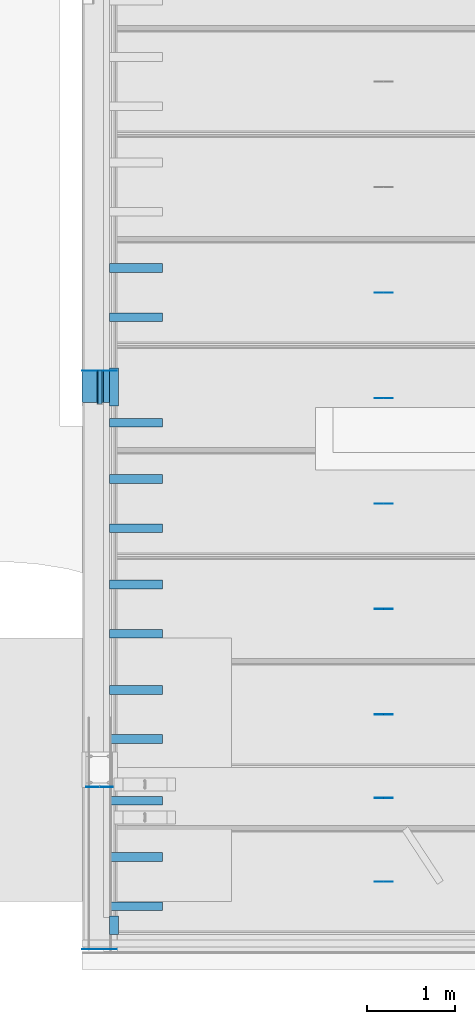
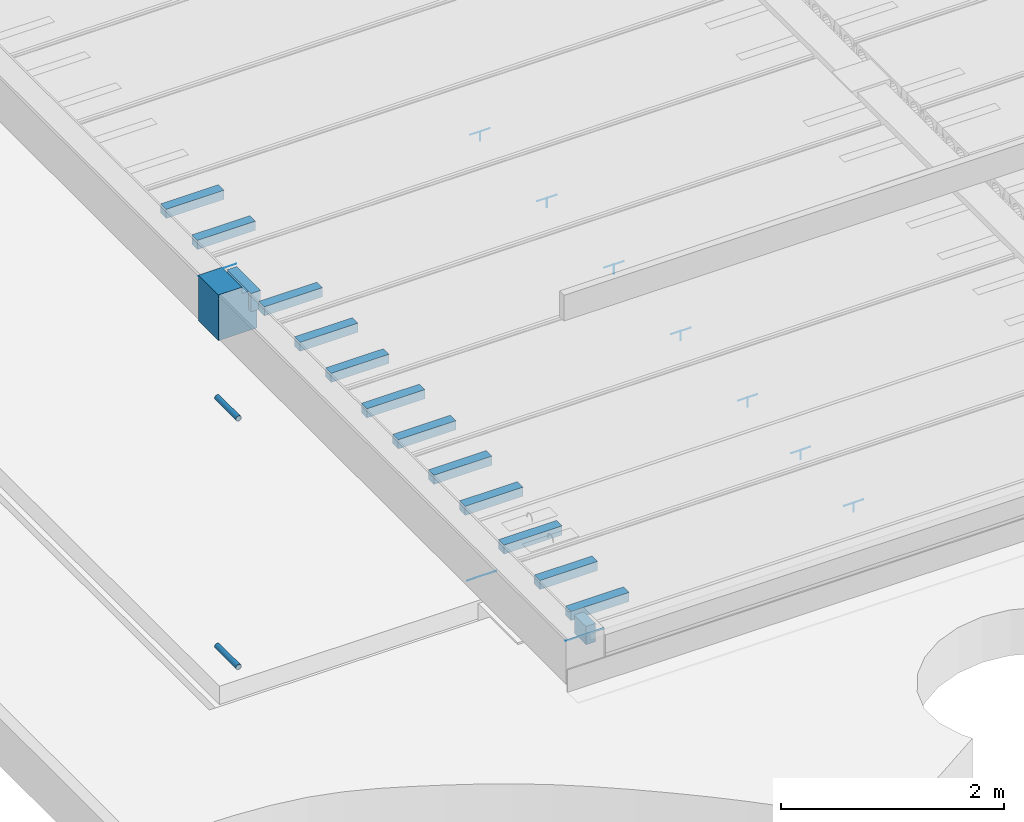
# One storey, part 10 of 230: 34 beams.
"""IFC4X3_ADD2 building model written with IfcOpenShell, lengths in millimetres."""

from ifc_helpers import new_model, si_unit, direction, frame, frame_2d, origin_with_axes, place, context, subcontext, project, spatial, indexed_curve, rectangle, hollow_circle, outline, extrude, material, element, save


model = new_model("IFC4X3_ADD2")

# Units and contexts
model_context = context("Model", 3, precision=1e-05, world=origin_with_axes(), true_north=direction((0.0, 1.0)))
body_context = subcontext(model_context, "Body", "Model", "MODEL_VIEW")
ifc_project = project(units=[si_unit("LENGTHUNIT", "METRE", prefix="MILLI"), si_unit("AREAUNIT", "SQUARE_METRE"), si_unit("VOLUMEUNIT", "CUBIC_METRE"), si_unit("PLANEANGLEUNIT", "RADIAN"), si_unit("TIMEUNIT", "SECOND"), si_unit("MASSUNIT", "GRAM")], contexts=[model_context])

# Site, building, storey
site_placement = place(None, origin_with_axes())
site = spatial("IfcSite", under=ifc_project, at=site_placement, Name="Site", CompositionType="ELEMENT")
building_placement = place(site_placement, origin_with_axes())
building = spatial("IfcBuilding", under=site, at=building_placement, Name="IFC Building Story")
storey_placement = place(building_placement, origin_with_axes())
storey = spatial("IfcBuildingStorey", under=building, at=storey_placement, Name="ETAGE 00 (0)", Elevation=0.0)

# Beams
ifc_material_1 = material(Name="BS_28_Ossature en béton armé - Eléments coulé sur place")
beam_1_placement = place(storey_placement, frame((33401.68947816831, -8210.00008672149, 4020.0), z_axis=(0.0, 1.0, 0.0), x_axis=(1.0, 0.0, 0.0)))
element("IfcBeam", 1, at=beam_1_placement, inside=storey, material=ifc_material_1, Name="BS_28_SF_LE_Poutre rectangulaire_coulé:B.A. 40x50cm (noeud CSP)", ObjectType="B.A. 40x50cm (noeud CSP)", context=body_context, shape_type="SweptSolid", body=[
    extrude(outline(indexed_curve([(44.4985218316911, -180.0), (44.4985218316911, -250.0), (-200.0000000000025, -250.0), (-200.0000000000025, 250.0), (200.0000000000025, 250.0), (200.0000000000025, -180.0), (44.49852183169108, -180.0)])), origin_with_axes(), (0.0, 0.0, 1.0), 360.0),
])
ifc_material_2 = material(Name="STEEL/Accessory_PVC")
for number, where, z_axis, x_axis, name in (
    (2, (33401.189, -8226.99999994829, 140.0), (0.0, 1.0, 0.0), (1.0, 0.0, 0.0), "PS13"),
    (3, (33401.189, -8226.99999994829, 2860.0), (0.0, 1.0, 0.0), (1.0, 0.0, 0.0), "PS13"),
):
    element("IfcBeam", number, at=place(storey_placement, frame(where, z_axis=z_axis, x_axis=x_axis)), inside=storey, material=ifc_material_2, Name=name, ObjectType="O56*3", context=body_context, shape_type="SweptSolid", body=[
        extrude(hollow_circle(Radius=28.0, WallThickness=3.0, at=frame_2d((0.0, 5.95523630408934e-12), x_axis=(1.0, 0.0))), origin_with_axes(), (0.0, 0.0, 1.0), 384.0),
    ])
ifc_material_3 = material(Name="STEEL/Accessory_invisible")
for number, where, z_axis, x_axis, name in (
    (4, (34115.6922247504, -6679.999771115, 4150.0), (-1.0, 0.0, 0.0), (0.0, 1.0, 0.0), "ES7"),
    (5, (34115.6922247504, -7239.999771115, 4150.0), (-1.0, 0.0, 0.0), (0.0, 1.0, 0.0), "ES7"),
):
    element("IfcBeam", number, at=place(storey_placement, frame(where, z_axis=z_axis, x_axis=x_axis)), inside=storey, material=ifc_material_3, Name=name, ObjectType="100*100", context=body_context, shape_type="SweptSolid", body=[
        extrude(rectangle(XDim=100.0, YDim=99.99999999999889, at=frame_2d((0.0, 5.95523630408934e-12), x_axis=(1.0, 0.0))), origin_with_axes(), (0.0, 0.0, 1.0), 600.0),
    ])
ifc_material_4 = material(Name="STEEL/Accessory_invisible 261")
beam_2_placement = place(storey_placement, frame((36633.6922247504, -6959.999771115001, 4049.9999909), z_axis=(-1.0, 0.0, 0.0), x_axis=(0.0, 0.0, -1.0)))
element("IfcBeam", 6, at=beam_2_placement, inside=storey, material=ifc_material_4, Name="ES6", ObjectType="1*1 2", context=body_context, shape_type="SweptSolid", body=[
    extrude(rectangle(XDim=100.0, YDim=0.9999999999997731, at=frame_2d((0.0, 5.95523630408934e-12), x_axis=(1.0, 0.0))), origin_with_axes(), (0.0, 0.0, 1.0), 1.0),
])
beam_3_placement = place(storey_placement, frame((36733.1922247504, -6959.999771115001, 4100.0), z_axis=(-1.0, 0.0, 0.0), x_axis=(0.0, 1.0, 0.0)))
element("IfcBeam", 7, at=beam_3_placement, inside=storey, material=ifc_material_4, Name="ES31", ObjectType="1*1 3", context=body_context, shape_type="SweptSolid", body=[
    extrude(rectangle(XDim=0.9999999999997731, YDim=0.9999999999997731, at=frame_2d((0.0, 5.95523630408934e-12), x_axis=(1.0, 0.0))), origin_with_axes(), (0.0, 0.0, 1.0), 200.0),
])
for number, where, z_axis, x_axis, name in (
    (8, (34115.6922247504, -9079.999771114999, 4150.0), (-1.0, 0.0, 0.0), (0.0, 1.0, 0.0), "ES7"),
    (9, (34115.6922247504, -9639.999771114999, 4150.0), (-1.0, 0.0, 0.0), (0.0, 1.0, 0.0), "ES7"),
):
    element("IfcBeam", number, at=place(storey_placement, frame(where, z_axis=z_axis, x_axis=x_axis)), inside=storey, material=ifc_material_3, Name=name, ObjectType="100*100", context=body_context, shape_type="SweptSolid", body=[
        extrude(rectangle(XDim=100.0, YDim=99.99999999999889, at=frame_2d((0.0, 5.95523630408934e-12), x_axis=(1.0, 0.0))), origin_with_axes(), (0.0, 0.0, 1.0), 600.0),
    ])
beam_4_placement = place(storey_placement, frame((36633.6922247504, -9359.999771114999, 4049.9999909), z_axis=(-1.0, 0.0, 0.0), x_axis=(0.0, 0.0, -1.0)))
element("IfcBeam", 10, at=beam_4_placement, inside=storey, material=ifc_material_4, Name="ES6", ObjectType="1*1 2", context=body_context, shape_type="SweptSolid", body=[
    extrude(rectangle(XDim=100.0, YDim=0.9999999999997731, at=frame_2d((0.0, 5.95523630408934e-12), x_axis=(1.0, 0.0))), origin_with_axes(), (0.0, 0.0, 1.0), 1.0),
])
beam_5_placement = place(storey_placement, frame((36733.1922247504, -9359.999771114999, 4100.0), z_axis=(-1.0, 0.0, 0.0), x_axis=(0.0, 1.0, 0.0)))
element("IfcBeam", 11, at=beam_5_placement, inside=storey, material=ifc_material_4, Name="ES31", ObjectType="1*1 3", context=body_context, shape_type="SweptSolid", body=[
    extrude(rectangle(XDim=0.9999999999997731, YDim=0.9999999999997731, at=frame_2d((0.0, 5.95523630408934e-12), x_axis=(1.0, 0.0))), origin_with_axes(), (0.0, 0.0, 1.0), 200.0),
])
for number, where, z_axis, x_axis, name in (
    (12, (34115.6922247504, -10279.999771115, 4150.0), (-1.0, 0.0, 0.0), (0.0, 1.0, 0.0), "ES7"),
    (13, (34115.6922247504, -10839.999771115, 4150.0), (-1.0, 0.0, 0.0), (0.0, 1.0, 0.0), "ES7"),
):
    element("IfcBeam", number, at=place(storey_placement, frame(where, z_axis=z_axis, x_axis=x_axis)), inside=storey, material=ifc_material_3, Name=name, ObjectType="100*100", context=body_context, shape_type="SweptSolid", body=[
        extrude(rectangle(XDim=100.0, YDim=99.99999999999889, at=frame_2d((0.0, 5.95523630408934e-12), x_axis=(1.0, 0.0))), origin_with_axes(), (0.0, 0.0, 1.0), 600.0),
    ])
beam_6_placement = place(storey_placement, frame((36633.6922247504, -10559.999771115, 4049.9999909), z_axis=(-1.0, 0.0, 0.0), x_axis=(0.0, 0.0, -1.0)))
element("IfcBeam", 14, at=beam_6_placement, inside=storey, material=ifc_material_4, Name="ES6", ObjectType="1*1 2", context=body_context, shape_type="SweptSolid", body=[
    extrude(rectangle(XDim=100.0, YDim=0.9999999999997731, at=frame_2d((0.0, 5.95523630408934e-12), x_axis=(1.0, 0.0))), origin_with_axes(), (0.0, 0.0, 1.0), 1.0),
])
beam_7_placement = place(storey_placement, frame((36733.1922247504, -10559.999771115, 4100.0), z_axis=(-1.0, 0.0, 0.0), x_axis=(0.0, 1.0, 0.0)))
element("IfcBeam", 15, at=beam_7_placement, inside=storey, material=ifc_material_4, Name="ES31", ObjectType="1*1 3", context=body_context, shape_type="SweptSolid", body=[
    extrude(rectangle(XDim=0.9999999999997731, YDim=0.9999999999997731, at=frame_2d((0.0, 5.95523630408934e-12), x_axis=(1.0, 0.0))), origin_with_axes(), (0.0, 0.0, 1.0), 200.0),
])
for number, where, z_axis, x_axis, name in (
    (16, (34115.6922247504, -11479.999771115, 4150.0), (-1.0, 0.0, 0.0), (0.0, 1.0, 0.0), "ES7"),
    (17, (34115.6922247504, -12039.999771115, 4150.0), (-1.0, 0.0, 0.0), (0.0, 1.0, 0.0), "ES7"),
):
    element("IfcBeam", number, at=place(storey_placement, frame(where, z_axis=z_axis, x_axis=x_axis)), inside=storey, material=ifc_material_3, Name=name, ObjectType="100*100", context=body_context, shape_type="SweptSolid", body=[
        extrude(rectangle(XDim=100.0, YDim=99.99999999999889, at=frame_2d((0.0, 5.95523630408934e-12), x_axis=(1.0, 0.0))), origin_with_axes(), (0.0, 0.0, 1.0), 600.0),
    ])
beam_8_placement = place(storey_placement, frame((36633.6922247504, -11759.999771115, 4049.9999909), z_axis=(-1.0, 0.0, 0.0), x_axis=(0.0, 0.0, -1.0)))
element("IfcBeam", 18, at=beam_8_placement, inside=storey, material=ifc_material_4, Name="ES6", ObjectType="1*1 2", context=body_context, shape_type="SweptSolid", body=[
    extrude(rectangle(XDim=100.0, YDim=0.9999999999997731, at=frame_2d((0.0, 5.95523630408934e-12), x_axis=(1.0, 0.0))), origin_with_axes(), (0.0, 0.0, 1.0), 1.0),
])
beam_9_placement = place(storey_placement, frame((36733.1922247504, -11759.999771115, 4100.0), z_axis=(-1.0, 0.0, 0.0), x_axis=(0.0, 1.0, 0.0)))
element("IfcBeam", 19, at=beam_9_placement, inside=storey, material=ifc_material_4, Name="ES31", ObjectType="1*1 3", context=body_context, shape_type="SweptSolid", body=[
    extrude(rectangle(XDim=0.9999999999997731, YDim=0.9999999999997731, at=frame_2d((0.0, 5.95523630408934e-12), x_axis=(1.0, 0.0))), origin_with_axes(), (0.0, 0.0, 1.0), 200.0),
])
beam_10_placement = place(storey_placement, frame((33515.6922247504, -14154.999771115, 4099.9999909), z_axis=(1.0, 0.0, 0.0), x_axis=(0.0, 0.0, -1.0)))
element("IfcBeam", 20, at=beam_10_placement, inside=storey, material=ifc_material_3, Name="ES32", ObjectType="200*210", context=body_context, shape_type="SweptSolid", body=[
    extrude(rectangle(XDim=200.0, YDim=210.000000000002, at=frame_2d((0.0, 5.95523630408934e-12), x_axis=(1.0, 0.0))), origin_with_axes(), (0.0, 0.0, 1.0), 100.0),
])
for number, where, z_axis, x_axis, name in (
    (21, (34115.6922247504, -13379.999771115, 4150.0), (-1.0, 0.0, 0.0), (0.0, 1.0, 0.0), "ES7"),
    (22, (34115.6922247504, -13939.999771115, 4150.0), (-1.0, 0.0, 0.0), (0.0, 1.0, 0.0), "ES7"),
):
    element("IfcBeam", number, at=place(storey_placement, frame(where, z_axis=z_axis, x_axis=x_axis)), inside=storey, material=ifc_material_3, Name=name, ObjectType="100*100", context=body_context, shape_type="SweptSolid", body=[
        extrude(rectangle(XDim=100.0, YDim=99.99999999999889, at=frame_2d((0.0, 5.95523630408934e-12), x_axis=(1.0, 0.0))), origin_with_axes(), (0.0, 0.0, 1.0), 600.0),
    ])
beam_11_placement = place(storey_placement, frame((36633.6922247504, -13659.999771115, 4049.9999909), z_axis=(-1.0, 0.0, 0.0), x_axis=(0.0, 0.0, -1.0)))
element("IfcBeam", 23, at=beam_11_placement, inside=storey, material=ifc_material_4, Name="ES6", ObjectType="1*1 2", context=body_context, shape_type="SweptSolid", body=[
    extrude(rectangle(XDim=100.0, YDim=0.9999999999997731, at=frame_2d((0.0, 5.95523630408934e-12), x_axis=(1.0, 0.0))), origin_with_axes(), (0.0, 0.0, 1.0), 1.0),
])
beam_12_placement = place(storey_placement, frame((36733.1922247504, -13659.999771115, 4100.0), z_axis=(-1.0, 0.0, 0.0), x_axis=(0.0, 1.0, 0.0)))
element("IfcBeam", 24, at=beam_12_placement, inside=storey, material=ifc_material_4, Name="ES31", ObjectType="1*1 3", context=body_context, shape_type="SweptSolid", body=[
    extrude(rectangle(XDim=0.9999999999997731, YDim=0.9999999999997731, at=frame_2d((0.0, 5.95523630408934e-12), x_axis=(1.0, 0.0))), origin_with_axes(), (0.0, 0.0, 1.0), 200.0),
])
beam_13_placement = place(storey_placement, frame((34115.6922247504, -8439.999771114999, 4150.0), z_axis=(-1.0, 0.0, 0.0), x_axis=(0.0, 1.0, 0.0)))
element("IfcBeam", 25, at=beam_13_placement, inside=storey, material=ifc_material_3, Name="ES7", ObjectType="100*100", context=body_context, shape_type="SweptSolid", body=[
    extrude(rectangle(XDim=100.0, YDim=99.99999999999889, at=frame_2d((0.0, 5.95523630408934e-12), x_axis=(1.0, 0.0))), origin_with_axes(), (0.0, 0.0, 1.0), 600.0),
])
beam_14_placement = place(storey_placement, frame((36633.6922247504, -8159.999771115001, 4049.9999909), z_axis=(-1.0, 0.0, 0.0), x_axis=(0.0, 0.0, -1.0)))
element("IfcBeam", 26, at=beam_14_placement, inside=storey, material=ifc_material_4, Name="ES6", ObjectType="1*1 2", context=body_context, shape_type="SweptSolid", body=[
    extrude(rectangle(XDim=100.0, YDim=0.9999999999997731, at=frame_2d((0.0, 5.95523630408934e-12), x_axis=(1.0, 0.0))), origin_with_axes(), (0.0, 0.0, 1.0), 1.0),
])
beam_15_placement = place(storey_placement, frame((36733.1922247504, -8159.999771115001, 4100.0), z_axis=(-1.0, 0.0, 0.0), x_axis=(0.0, 1.0, 0.0)))
element("IfcBeam", 27, at=beam_15_placement, inside=storey, material=ifc_material_4, Name="ES31", ObjectType="1*1 3", context=body_context, shape_type="SweptSolid", body=[
    extrude(rectangle(XDim=0.9999999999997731, YDim=0.9999999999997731, at=frame_2d((0.0, 5.95523630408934e-12), x_axis=(1.0, 0.0))), origin_with_axes(), (0.0, 0.0, 1.0), 200.0),
])
beam_16_placement = place(storey_placement, frame((33515.6922247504, -8034.999771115, 4100.0), z_axis=(1.0, 0.0, 0.0), x_axis=(0.0, 0.0, -1.0)))
element("IfcBeam", 28, at=beam_16_placement, inside=storey, material=ifc_material_3, Name="ES32", ObjectType="200*430", context=body_context, shape_type="SweptSolid", body=[
    extrude(rectangle(XDim=200.0, YDim=430.000000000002, at=frame_2d((0.0, 5.95523630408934e-12), x_axis=(1.0, 0.0))), origin_with_axes(), (0.0, 0.0, 1.0), 100.0),
])
beam_17_placement = place(storey_placement, frame((34115.6922247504, -12739.999752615, 4150.0), z_axis=(-1.0, 0.0, 0.0), x_axis=(0.0, 1.0, 0.0)))
element("IfcBeam", 29, at=beam_17_placement, inside=storey, material=ifc_material_3, Name="ES7", ObjectType="100*100", context=body_context, shape_type="SweptSolid", body=[
    extrude(rectangle(XDim=100.0, YDim=99.99999999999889, at=frame_2d((0.0, 5.95523630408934e-12), x_axis=(1.0, 0.0))), origin_with_axes(), (0.0, 0.0, 1.0), 600.0),
])
beam_18_placement = place(storey_placement, frame((36633.6922247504, -12709.999761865, 4049.9999909), z_axis=(-1.0, 0.0, 0.0), x_axis=(0.0, 0.0, -1.0)))
element("IfcBeam", 30, at=beam_18_placement, inside=storey, material=ifc_material_4, Name="ES6", ObjectType="1*1 2", context=body_context, shape_type="SweptSolid", body=[
    extrude(rectangle(XDim=100.0, YDim=0.9999999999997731, at=frame_2d((0.0, 5.95523630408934e-12), x_axis=(1.0, 0.0))), origin_with_axes(), (0.0, 0.0, 1.0), 1.0),
])
beam_19_placement = place(storey_placement, frame((36733.1922247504, -12709.999761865, 4100.0), z_axis=(-1.0, 0.0, 0.0), x_axis=(0.0, 1.0, 0.0)))
element("IfcBeam", 31, at=beam_19_placement, inside=storey, material=ifc_material_4, Name="ES31", ObjectType="1*1 3", context=body_context, shape_type="SweptSolid", body=[
    extrude(rectangle(XDim=0.9999999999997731, YDim=0.9999999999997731, at=frame_2d((0.0, 5.95523630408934e-12), x_axis=(1.0, 0.0))), origin_with_axes(), (0.0, 0.0, 1.0), 200.0),
])
beam_20_placement = place(storey_placement, frame((33596.088, -14430.0, 4254.5), z_axis=(-1.0, 0.0, 0.0), x_axis=(0.0, 1.0, 0.0)))
element("IfcBeam", 32, at=beam_20_placement, inside=storey, material=ifc_material_3, Name="ZW3", ObjectType="1*1 3", context=body_context, shape_type="SweptSolid", body=[
    extrude(rectangle(XDim=0.9999999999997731, YDim=0.9999999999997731, at=frame_2d((0.0, 5.95523630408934e-12), x_axis=(1.0, 0.0))), origin_with_axes(), (0.0, 0.0, 1.0), 389.8999999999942),
])
beam_21_placement = place(storey_placement, frame((33551.6876471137, -12584.499771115, 3779.5), z_axis=(-1.0, 0.0, 0.0), x_axis=(0.0, 1.0, 0.0)))
element("IfcBeam", 33, at=beam_21_placement, inside=storey, material=ifc_material_4, Name="51", ObjectType="1*1 3", context=body_context, shape_type="SweptSolid", body=[
    extrude(rectangle(XDim=0.9999999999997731, YDim=0.9999999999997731, at=frame_2d((0.0, 5.95523630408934e-12), x_axis=(1.0, 0.0))), origin_with_axes(), (0.0, 0.0, 1.0), 300.0),
])
beam_22_placement = place(storey_placement, frame((33596.088, -7850.0, 4254.5), z_axis=(-1.0, 0.0, 0.0), x_axis=(0.0, 1.0, 0.0)))
element("IfcBeam", 34, at=beam_22_placement, inside=storey, material=ifc_material_3, Name="ZW3", ObjectType="1*1 3", context=body_context, shape_type="SweptSolid", body=[
    extrude(rectangle(XDim=0.9999999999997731, YDim=0.9999999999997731, at=frame_2d((0.0, 5.95523630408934e-12), x_axis=(1.0, 0.0))), origin_with_axes(), (0.0, 0.0, 1.0), 389.8999999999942),
])

save(model, "model.ifc")
